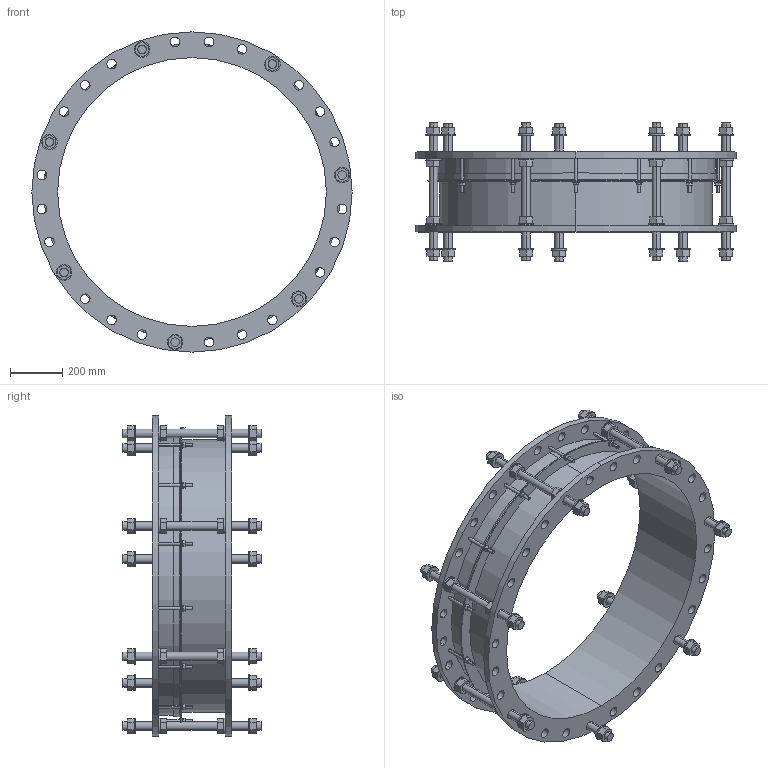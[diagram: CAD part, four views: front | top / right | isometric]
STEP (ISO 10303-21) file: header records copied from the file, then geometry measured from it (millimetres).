
FILE_DESCRIPTION((''),'2;1');
FILE_NAME('YF2_DJ_BIM_ASM','2020-11-25T',('mfairey'),('Glynwed Pipe Systems'),'CREO PARAMETRIC BY PTC INC, 2016130','CREO PARAMETRIC BY PTC INC, 2016130','');
FILE_SCHEMA(('CONFIG_CONTROL_DESIGN'));
Length unit declared in the file: millimetre
Products named in the file (3): DJ_AF0; TIE_BOLT_BIM; YF2_DJ_BIM_ASM
Assembly tree (8 placements, depth 2):
  YF2_DJ_BIM_ASM
    DJ_AF0
    TIE_BOLT_BIM  x7
Bounding box: 1230 x 530 x 1230 mm (x, y, z)
Volume: 31164234.9 mm3; surface area: 4308493.6 mm2
Topology: 8 solids, 8 shells, 762 faces, 1866 edges, 1234 vertices
Faces by surface type: plane 412, cylinder 346, cone 4
Entity records: 14660 total; most frequent: CARTESIAN_POINT 3358, DIRECTION 2448, ORIENTED_EDGE 2220, EDGE_CURVE 1110, AXIS2_PLACEMENT_3D 940, VERTEX_POINT 730, EDGE_LOOP 610, VECTOR 568
